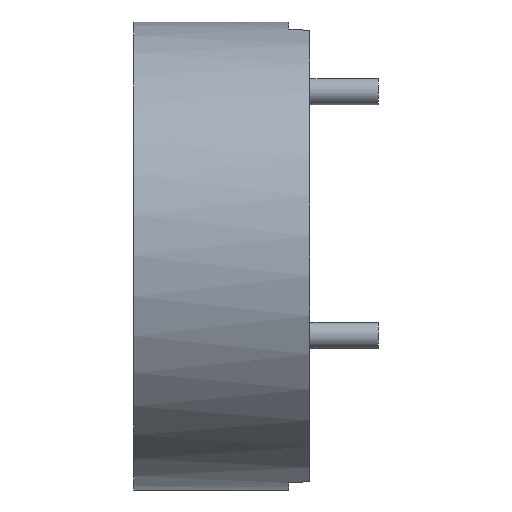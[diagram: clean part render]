
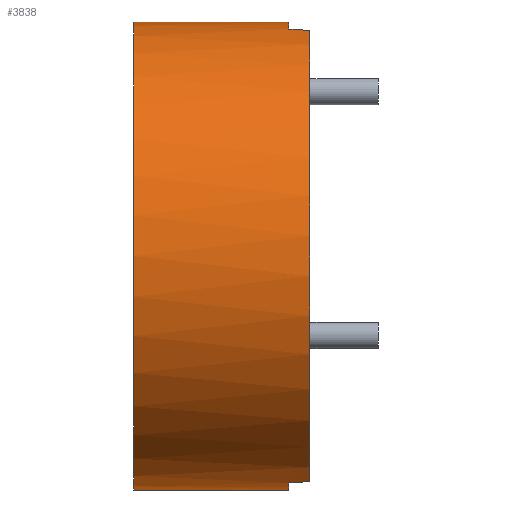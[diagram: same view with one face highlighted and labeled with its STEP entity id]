
A CAD part, left-side view. The second image highlights one B-rep face of the part: STEP entity #3838.
In plain terms, the highlighted cylindrical face has radius 14.287 mm (diameter 28.575 mm), a partial arc.
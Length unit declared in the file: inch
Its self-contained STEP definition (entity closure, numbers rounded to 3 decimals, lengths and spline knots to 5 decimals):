
#184 = FACE_OUTER_BOUND ( 'NONE', #3801, .T. ) ;
#502 = VECTOR ( 'NONE', #1039, 39.37008 ) ;
#583 = EDGE_CURVE ( 'NONE', #5513, #7536, #1207, .T. ) ;
#600 = DIRECTION ( 'NONE',  ( 0., 1., 0. ) ) ;
#671 = DIRECTION ( 'NONE',  ( 0., 0., 1. ) ) ;
#694 = CARTESIAN_POINT ( 'NONE',  ( 0., 0.2115, 0.5625 ) ) ;
#706 = CARTESIAN_POINT ( 'NONE',  ( 0., -0.1615, 0. ) ) ;
#733 = CARTESIAN_POINT ( 'NONE',  ( -0.1366, -0.1615, -0.54566 ) ) ;
#744 = DIRECTION ( 'NONE',  ( 0., 0., -1. ) ) ;
#858 = ORIENTED_EDGE ( 'NONE', *, *, #2089, .T. ) ;
#972 = VERTEX_POINT ( 'NONE', #694 ) ;
#973 = CARTESIAN_POINT ( 'NONE',  ( -0.15, -0.2115, -0.54213 ) ) ;
#1023 = CARTESIAN_POINT ( 'NONE',  ( -0.1366, -0.1615, 0.54566 ) ) ;
#1039 = DIRECTION ( 'NONE',  ( 0., -1., 0. ) ) ;
#1207 = CIRCLE ( 'NONE', #5291, 0.5625 ) ;
#1419 = EDGE_CURVE ( 'NONE', #7326, #4445, #6533, .T. ) ;
#1438 = CIRCLE ( 'NONE', #1578, 0.5625 ) ;
#1513 = ORIENTED_EDGE ( 'NONE', *, *, #6636, .F. ) ;
#1578 = AXIS2_PLACEMENT_3D ( 'NONE', #7803, #4639, #671 ) ;
#1668 = CARTESIAN_POINT ( 'NONE',  ( -0.14108, -0.17822, 0.54454 ) ) ;
#1706 = CARTESIAN_POINT ( 'NONE',  ( -0.14555, -0.19489, 0.54336 ) ) ;
#1721 = CARTESIAN_POINT ( 'NONE',  ( 0., 0.2115, 0.5625 ) ) ;
#2005 = AXIS2_PLACEMENT_3D ( 'NONE', #3186, #5100, #2596 ) ;
#2072 = VERTEX_POINT ( 'NONE', #6581 ) ;
#2089 = EDGE_CURVE ( 'NONE', #8255, #7326, #3211, .T. ) ;
#2153 = DIRECTION ( 'NONE',  ( 0., -1., 0. ) ) ;
#2165 = VECTOR ( 'NONE', #5173, 39.37008 ) ;
#2184 = CARTESIAN_POINT ( 'NONE',  ( -0.15, -0.2115, 0.54213 ) ) ;
#2314 = VERTEX_POINT ( 'NONE', #2333 ) ;
#2333 = CARTESIAN_POINT ( 'NONE',  ( -0.1366, -0.1615, 0.54566 ) ) ;
#2350 = ORIENTED_EDGE ( 'NONE', *, *, #6991, .T. ) ;
#2491 =( BOUNDED_CURVE ( )  B_SPLINE_CURVE ( 3, ( #3162, #4526, #7772, #3203 ),
 .UNSPECIFIED., .F., .F. ) 
 B_SPLINE_CURVE_WITH_KNOTS ( ( 4, 4 ),
 ( 4.95769, 4.98232 ),
 .UNSPECIFIED. ) 
 CURVE ( )  GEOMETRIC_REPRESENTATION_ITEM ( )  RATIONAL_B_SPLINE_CURVE ( ( 1., 1., 1., 1. ) ) 
 REPRESENTATION_ITEM ( '' )  );
#2596 = DIRECTION ( 'NONE',  ( 0., 0., 1. ) ) ;
#2712 = CYLINDRICAL_SURFACE ( 'NONE', #7442, 0.5625 ) ;
#2800 = CARTESIAN_POINT ( 'NONE',  ( -0.15, -0.2115, 0.54213 ) ) ;
#2855 = ORIENTED_EDGE ( 'NONE', *, *, #583, .T. ) ;
#3162 = CARTESIAN_POINT ( 'NONE',  ( -0.1366, -0.1615, -0.54566 ) ) ;
#3186 = CARTESIAN_POINT ( 'NONE',  ( 0., 0.2115, 0. ) ) ;
#3203 = CARTESIAN_POINT ( 'NONE',  ( -0.15, -0.2115, -0.54213 ) ) ;
#3211 = LINE ( 'NONE', #8423, #2165 ) ;
#3226 = CARTESIAN_POINT ( 'NONE',  ( 0., 0.2115, -0.5625 ) ) ;
#3801 = EDGE_LOOP ( 'NONE', ( #1513, #7078, #858, #5310, #4105, #2855, #2350, #7033 ) ) ;
#3838 = ADVANCED_FACE ( 'NONE', ( #184 ), #2712, .T. ) ;
#4086 = EDGE_CURVE ( 'NONE', #2314, #2072, #1438, .T. ) ;
#4105 = ORIENTED_EDGE ( 'NONE', *, *, #5260, .T. ) ;
#4285 = LINE ( 'NONE', #1721, #502 ) ;
#4445 = VERTEX_POINT ( 'NONE', #733 ) ;
#4526 = CARTESIAN_POINT ( 'NONE',  ( -0.14108, -0.17822, -0.54454 ) ) ;
#4639 = DIRECTION ( 'NONE',  ( 0., 1., 0. ) ) ;
#5100 = DIRECTION ( 'NONE',  ( 0., 1., 0. ) ) ;
#5171 = CARTESIAN_POINT ( 'NONE',  ( 0., -0.2115, 0. ) ) ;
#5173 = DIRECTION ( 'NONE',  ( 0., -1., 0. ) ) ;
#5260 = EDGE_CURVE ( 'NONE', #4445, #5513, #2491, .T. ) ;
#5291 = AXIS2_PLACEMENT_3D ( 'NONE', #5171, #600, #7222 ) ;
#5310 = ORIENTED_EDGE ( 'NONE', *, *, #1419, .T. ) ;
#5513 = VERTEX_POINT ( 'NONE', #973 ) ;
#5686 = CIRCLE ( 'NONE', #2005, 0.5625 ) ;
#5709 = AXIS2_PLACEMENT_3D ( 'NONE', #706, #7280, #6603 ) ;
#6437 = EDGE_CURVE ( 'NONE', #8255, #972, #5686, .T. ) ;
#6533 = CIRCLE ( 'NONE', #5709, 0.5625 ) ;
#6581 = CARTESIAN_POINT ( 'NONE',  ( 0., -0.1615, 0.5625 ) ) ;
#6603 = DIRECTION ( 'NONE',  ( 0., 0., 1. ) ) ;
#6636 = EDGE_CURVE ( 'NONE', #972, #2072, #4285, .T. ) ;
#6719 =( BOUNDED_CURVE ( )  B_SPLINE_CURVE ( 3, ( #2184, #1706, #1668, #1023 ),
 .UNSPECIFIED., .F., .F. ) 
 B_SPLINE_CURVE_WITH_KNOTS ( ( 4, 4 ),
 ( 1.30086, 1.32549 ),
 .UNSPECIFIED. ) 
 CURVE ( )  GEOMETRIC_REPRESENTATION_ITEM ( )  RATIONAL_B_SPLINE_CURVE ( ( 1., 1., 1., 1. ) ) 
 REPRESENTATION_ITEM ( '' )  );
#6991 = EDGE_CURVE ( 'NONE', #7536, #2314, #6719, .T. ) ;
#7033 = ORIENTED_EDGE ( 'NONE', *, *, #4086, .T. ) ;
#7078 = ORIENTED_EDGE ( 'NONE', *, *, #6437, .F. ) ;
#7222 = DIRECTION ( 'NONE',  ( 0., 0., 1. ) ) ;
#7278 = CARTESIAN_POINT ( 'NONE',  ( 0., 0.2115, 0. ) ) ;
#7280 = DIRECTION ( 'NONE',  ( 0., 1., 0. ) ) ;
#7326 = VERTEX_POINT ( 'NONE', #8406 ) ;
#7442 = AXIS2_PLACEMENT_3D ( 'NONE', #7278, #2153, #744 ) ;
#7536 = VERTEX_POINT ( 'NONE', #2800 ) ;
#7772 = CARTESIAN_POINT ( 'NONE',  ( -0.14555, -0.19489, -0.54336 ) ) ;
#7803 = CARTESIAN_POINT ( 'NONE',  ( 0., -0.1615, 0. ) ) ;
#8255 = VERTEX_POINT ( 'NONE', #3226 ) ;
#8406 = CARTESIAN_POINT ( 'NONE',  ( 0., -0.1615, -0.5625 ) ) ;
#8423 = CARTESIAN_POINT ( 'NONE',  ( 0., 0.2115, -0.5625 ) ) ;
